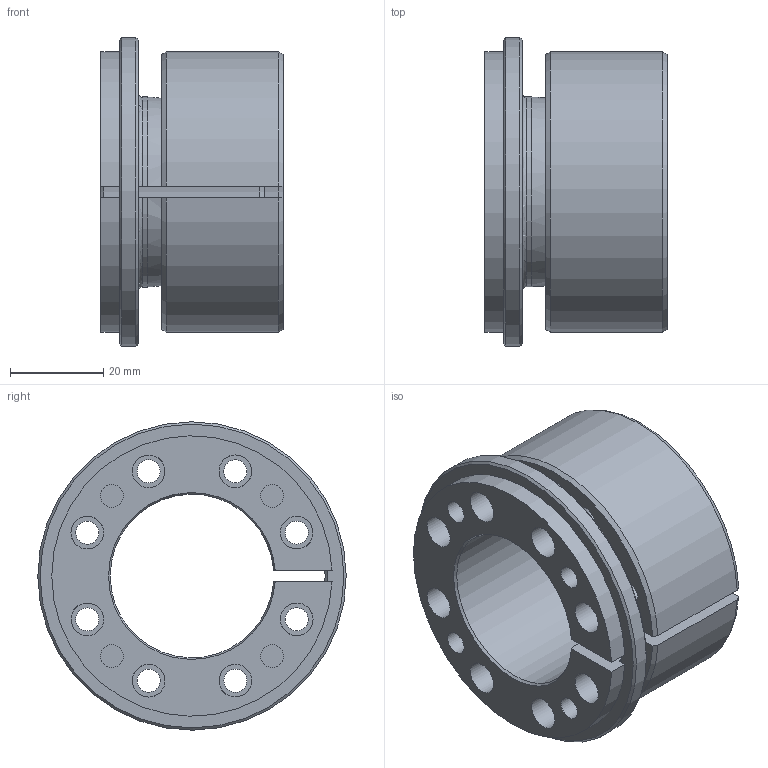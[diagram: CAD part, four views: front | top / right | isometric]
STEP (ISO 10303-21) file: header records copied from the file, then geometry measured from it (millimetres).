
FILE_DESCRIPTION(/* description */ ('CALETTATORI RCK 71 D.35/60'),/* implementation_level */ '2;1');
FILE_NAME(/* name */ '06710035.stp',/* time_stamp */ '2023-01-02T08:34:32+01:00',/* author */ ('Paolo.Silvestro'),/* organization */ (''),/* preprocessor_version */ 'ST-DEVELOPER v19.2',/* originating_system */ 'Autodesk Inventor 2023',/* authorisation */ '');
FILE_SCHEMA (('CONFIG_CONTROL_DESIGN'));
Length unit declared in the file: millimetre
Products named in the file (4): 06710035; Parte1; Anello esterno; Anello 71
Assembly tree (3 placements, depth 2):
  06710035
    Parte1
    Anello esterno
    Anello 71
Bounding box: 39 x 66 x 66 mm (x, y, z)
Volume: 58321.2 mm3; surface area: 30859.2 mm2
Topology: 3 solids, 3 shells, 53 faces, 165 edges, 110 vertices
Faces by surface type: cylinder 28, plane 12, cone 11, torus 2
Full cylindrical faces by diameter (mm): 4.917 x12, 7 x8, 57 x1, 66 x1
Entity records: 2279 total; most frequent: CARTESIAN_POINT 533, DIRECTION 358, ORIENTED_EDGE 330, EDGE_CURVE 165, AXIS2_PLACEMENT_3D 149, VERTEX_POINT 110, CIRCLE 89, EDGE_LOOP 87
